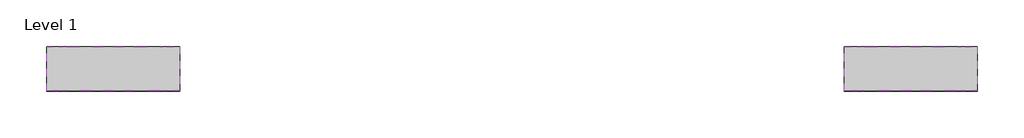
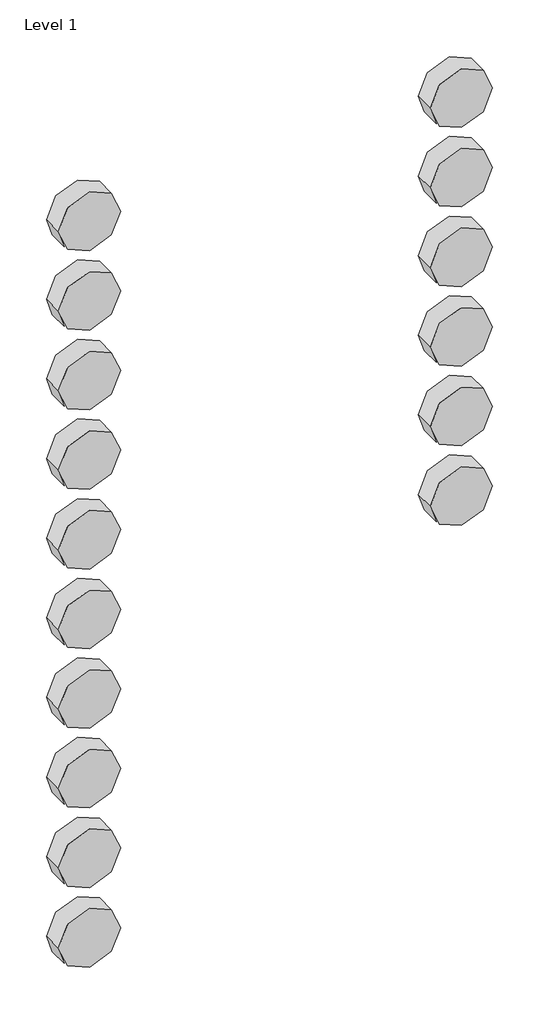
# One storey, incomplete: 16 proxies.
"""IFC4 building model written with IfcOpenShell, lengths in millimetres."""

from ifc_helpers import new_model, si_unit, origin, place, context, project, spatial, transform, mapped, element, save
from components import materialmodel_materialmodel_fd2eb195

model = new_model("IFC4")

# Units and contexts
model_context = context("Model", 3, world=origin())
ifc_project = project(units=[si_unit("LENGTHUNIT", "METRE", prefix="MILLI")], contexts=[model_context])

# Site, building, storey
site = spatial("IfcSite", under=ifc_project)
building = spatial("IfcBuilding", under=site)
storey = spatial("IfcBuildingStorey", under=building, Name="Level 1", Elevation=0.0)

# Proxies
placement = place(None, origin())
materialmodel_materialmodel_shape = materialmodel_materialmodel_fd2eb195(model_context)
element("IfcBuildingElementProxy", 1, Name="MaterialModel : MaterialModel", ObjectType="MaterialModel : MaterialModel", at=placement, inside=storey, context=model_context, shape_type="MappedRepresentation", body=[
    mapped(materialmodel_materialmodel_shape, transform((-3412.9822456, -305.1378897, 1224.1738847), x_axis=(1.0, 0.0, 0.0), y_axis=(0.0, 1.0, 0.0), z_axis=(0.0, 0.0, 1.0))),
])
element("IfcBuildingElementProxy", 2, Name="MaterialModel : MaterialModel", ObjectType="MaterialModel : MaterialModel", at=placement, inside=storey, context=model_context, shape_type="MappedRepresentation", body=[
    mapped(materialmodel_materialmodel_shape, transform((-3412.9822456, -305.1378897, -200.3591115), x_axis=(1.0, 0.0, 0.0), y_axis=(0.0, 1.0, 0.0), z_axis=(0.0, 0.0, 1.0))),
])
element("IfcBuildingElementProxy", 3, Name="MaterialModel : MaterialModel", ObjectType="MaterialModel : MaterialModel", at=placement, inside=storey, context=model_context, shape_type="MappedRepresentation", body=[
    mapped(materialmodel_materialmodel_shape, transform((-3412.9822456, -305.1378897, 410.1550297), x_axis=(1.0, 0.0, 0.0), y_axis=(0.0, 1.0, 0.0), z_axis=(0.0, 0.0, 1.0))),
])
element("IfcBuildingElementProxy", 4, Name="MaterialModel : MaterialModel", ObjectType="MaterialModel : MaterialModel", at=placement, inside=storey, context=model_context, shape_type="MappedRepresentation", body=[
    mapped(materialmodel_materialmodel_shape, transform((-3412.9822456, -305.1378897, 206.650316), x_axis=(1.0, 0.0, 0.0), y_axis=(0.0, 1.0, 0.0), z_axis=(0.0, 0.0, 1.0))),
])
element("IfcBuildingElementProxy", 5, Name="MaterialModel : MaterialModel", ObjectType="MaterialModel : MaterialModel", at=placement, inside=storey, context=model_context, shape_type="MappedRepresentation", body=[
    mapped(materialmodel_materialmodel_shape, transform((-3412.9822456, -305.1378897, -607.368539), x_axis=(1.0, 0.0, 0.0), y_axis=(0.0, 1.0, 0.0), z_axis=(0.0, 0.0, 1.0))),
])
element("IfcBuildingElementProxy", 6, Name="MaterialModel : MaterialModel", ObjectType="MaterialModel : MaterialModel", at=placement, inside=storey, context=model_context, shape_type="MappedRepresentation", body=[
    mapped(materialmodel_materialmodel_shape, transform((-3412.9822456, -305.1378897, -403.8638252), x_axis=(1.0, 0.0, 0.0), y_axis=(0.0, 1.0, 0.0), z_axis=(0.0, 0.0, 1.0))),
])
element("IfcBuildingElementProxy", 7, Name="MaterialModel : MaterialModel", ObjectType="MaterialModel : MaterialModel", at=placement, inside=storey, context=model_context, shape_type="MappedRepresentation", body=[
    mapped(materialmodel_materialmodel_shape, transform((-3412.9822456, -305.1378897, 3.1456022), x_axis=(1.0, 0.0, 0.0), y_axis=(0.0, 1.0, 0.0), z_axis=(0.0, 0.0, 1.0))),
])
element("IfcBuildingElementProxy", 8, Name="MaterialModel : MaterialModel", ObjectType="MaterialModel : MaterialModel", at=placement, inside=storey, context=model_context, shape_type="MappedRepresentation", body=[
    mapped(materialmodel_materialmodel_shape, transform((-3412.9822456, -305.1378897, 1020.6691709), x_axis=(1.0, 0.0, 0.0), y_axis=(0.0, 1.0, 0.0), z_axis=(0.0, 0.0, 1.0))),
])
element("IfcBuildingElementProxy", 9, Name="MaterialModel : MaterialModel", ObjectType="MaterialModel : MaterialModel", at=placement, inside=storey, context=model_context, shape_type="MappedRepresentation", body=[
    mapped(materialmodel_materialmodel_shape, transform((-3412.9822456, -305.1378897, 817.1644572), x_axis=(1.0, 0.0, 0.0), y_axis=(0.0, 1.0, 0.0), z_axis=(0.0, 0.0, 1.0))),
])
element("IfcBuildingElementProxy", 10, Name="MaterialModel : MaterialModel", ObjectType="MaterialModel : MaterialModel", at=placement, inside=storey, context=model_context, shape_type="MappedRepresentation", body=[
    mapped(materialmodel_materialmodel_shape, transform((-3412.9822456, -305.1378897, 613.6597435), x_axis=(1.0, 0.0, 0.0), y_axis=(0.0, 1.0, 0.0), z_axis=(0.0, 0.0, 1.0))),
])
element("IfcBuildingElementProxy", 11, Name="MaterialModel : MaterialModel", ObjectType="MaterialModel : MaterialModel", at=placement, inside=storey, context=model_context, shape_type="MappedRepresentation", body=[
    mapped(materialmodel_materialmodel_shape, transform((-2512.9822456, -305.1378897, 1224.1738847), x_axis=(1.0, 0.0, 0.0), y_axis=(0.0, 1.0, 0.0), z_axis=(0.0, 0.0, 1.0))),
])
element("IfcBuildingElementProxy", 12, Name="MaterialModel : MaterialModel", ObjectType="MaterialModel : MaterialModel", at=placement, inside=storey, context=model_context, shape_type="MappedRepresentation", body=[
    mapped(materialmodel_materialmodel_shape, transform((-2512.9822456, -305.1378897, 817.1644572), x_axis=(1.0, 0.0, 0.0), y_axis=(0.0, 1.0, 0.0), z_axis=(0.0, 0.0, 1.0))),
])
element("IfcBuildingElementProxy", 13, Name="MaterialModel : MaterialModel", ObjectType="MaterialModel : MaterialModel", at=placement, inside=storey, context=model_context, shape_type="MappedRepresentation", body=[
    mapped(materialmodel_materialmodel_shape, transform((-2512.9822456, -305.1378897, 1020.6691709), x_axis=(1.0, 0.0, 0.0), y_axis=(0.0, 1.0, 0.0), z_axis=(0.0, 0.0, 1.0))),
])
element("IfcBuildingElementProxy", 14, Name="MaterialModel : MaterialModel", ObjectType="MaterialModel : MaterialModel", at=placement, inside=storey, context=model_context, shape_type="MappedRepresentation", body=[
    mapped(materialmodel_materialmodel_shape, transform((-2512.9822456, -305.1378897, 613.6597435), x_axis=(1.0, 0.0, 0.0), y_axis=(0.0, 1.0, 0.0), z_axis=(0.0, 0.0, 1.0))),
])
element("IfcBuildingElementProxy", 15, Name="MaterialModel : MaterialModel", ObjectType="MaterialModel : MaterialModel", at=placement, inside=storey, context=model_context, shape_type="MappedRepresentation", body=[
    mapped(materialmodel_materialmodel_shape, transform((-2512.9822456, -305.1378897, 410.1550297), x_axis=(1.0, 0.0, 0.0), y_axis=(0.0, 1.0, 0.0), z_axis=(0.0, 0.0, 1.0))),
])
element("IfcBuildingElementProxy", 16, Name="MaterialModel : MaterialModel", ObjectType="MaterialModel : MaterialModel", at=placement, inside=storey, context=model_context, shape_type="MappedRepresentation", body=[
    mapped(materialmodel_materialmodel_shape, transform((-2512.9822456, -305.1378897, 206.650316), x_axis=(1.0, 0.0, 0.0), y_axis=(0.0, 1.0, 0.0), z_axis=(0.0, 0.0, 1.0))),
])

save(model, "model.ifc")
